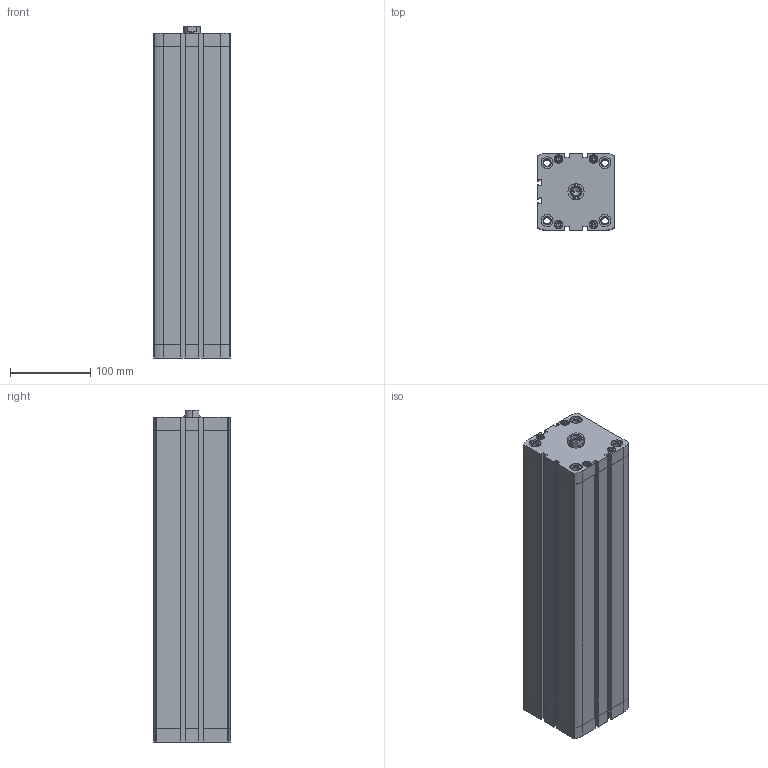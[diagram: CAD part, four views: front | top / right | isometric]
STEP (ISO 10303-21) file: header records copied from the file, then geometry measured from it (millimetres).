
FILE_DESCRIPTION (( 'STEP AP203' ), '1' );
FILE_NAME ('CCN80-350F.STEP', '2017-04-05T20:01:37', ( '' ), ( '' ), 'SwSTEP 2.0', 'SolidWorks 2016', '' );
FILE_SCHEMA (( 'CONFIG_CONTROL_DESIGN' ));
Length unit declared in the file: millimetre
Products named in the file (3): CCN-350---(Z); CCN-350_(KS); CCN80-350F
Assembly tree (2 placements, depth 2):
  CCN80-350F
    CCN-350---(Z)
    CCN-350_(KS)
Bounding box: 95.5 x 95.5 x 412.9 mm (x, y, z)
Volume: 1800977.7 mm3; surface area: 387273.8 mm2
Topology: 2 solids, 2 shells, 487 faces, 1232 edges, 779 vertices
Faces by surface type: plane 227, cylinder 186, cone 74
Entity records: 15281 total; most frequent: CARTESIAN_POINT 3035, DIRECTION 2616, ORIENTED_EDGE 2428, EDGE_CURVE 1214, AXIS2_PLACEMENT_3D 976, VERTEX_POINT 779, VECTOR 664, LINE 664
